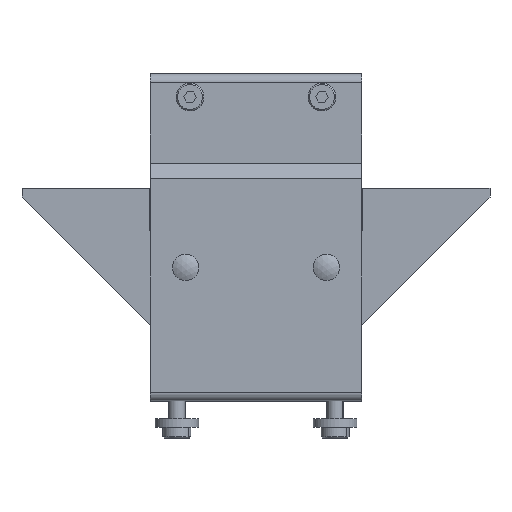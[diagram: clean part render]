
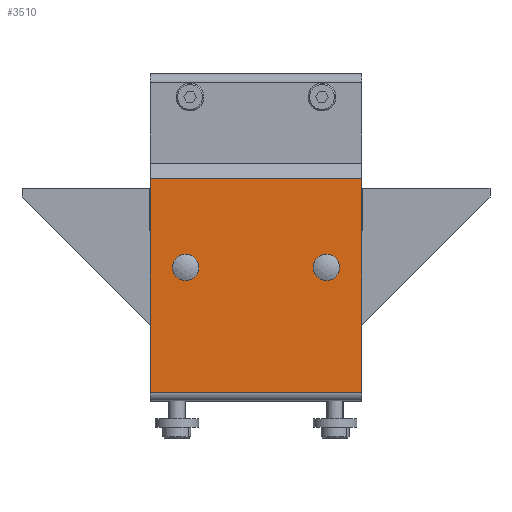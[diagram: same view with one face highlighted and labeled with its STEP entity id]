
A CAD part, top view. The second image highlights one B-rep face of the part: STEP entity #3510.
In plain terms, the highlighted planar face has unit normal (0, 0, 1) as drawn and (0, 0, -1) by its records, which use the part's own axes.
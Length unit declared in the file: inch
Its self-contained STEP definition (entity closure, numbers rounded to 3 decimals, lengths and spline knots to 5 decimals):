
#2622=DIRECTION('',(0.,-1.,0.));
#2623=VECTOR('',#2622,3.03);
#2624=CARTESIAN_POINT('',(-1.5,0.831,-0.6045));
#2625=LINE('',#2624,#2623);
#2720=DIRECTION('',(0.,-1.,0.));
#2721=VECTOR('',#2720,3.03);
#2722=CARTESIAN_POINT('',(1.5,0.831,-0.6045));
#2723=LINE('',#2722,#2721);
#2724=DIRECTION('',(1.,0.,0.));
#2725=VECTOR('',#2724,3.);
#2726=CARTESIAN_POINT('',(-1.5,0.831,-0.6045));
#2727=LINE('',#2726,#2725);
#2728=CARTESIAN_POINT('',(1.,-0.426,-0.6045));
#2729=DIRECTION('',(0.,0.,1.));
#2730=DIRECTION('',(1.,0.,0.));
#2731=AXIS2_PLACEMENT_3D('',#2728,#2729,#2730);
#2733=CARTESIAN_POINT('',(1.,-0.426,-0.6045));
#2734=DIRECTION('',(0.,0.,1.));
#2735=DIRECTION('',(-1.,0.,0.));
#2736=AXIS2_PLACEMENT_3D('',#2733,#2734,#2735);
#2738=CARTESIAN_POINT('',(-1.,-0.426,-0.6045));
#2739=DIRECTION('',(0.,0.,1.));
#2740=DIRECTION('',(1.,0.,0.));
#2741=AXIS2_PLACEMENT_3D('',#2738,#2739,#2740);
#2743=CARTESIAN_POINT('',(-1.,-0.426,-0.6045));
#2744=DIRECTION('',(0.,0.,1.));
#2745=DIRECTION('',(-1.,0.,0.));
#2746=AXIS2_PLACEMENT_3D('',#2743,#2744,#2745);
#2850=DIRECTION('',(1.,0.,0.));
#2851=VECTOR('',#2850,3.);
#2852=CARTESIAN_POINT('',(-1.5,-2.199,-0.6045));
#2853=LINE('',#2852,#2851);
#3182=CARTESIAN_POINT('',(-1.5,-2.199,-0.6045));
#3184=VERTEX_POINT('',#3182);
#3194=CARTESIAN_POINT('',(-0.903,-0.426,-0.6045));
#3195=CARTESIAN_POINT('',(-1.097,-0.426,-0.6045));
#3196=VERTEX_POINT('',#3194);
#3197=VERTEX_POINT('',#3195);
#3280=CARTESIAN_POINT('',(0.903,-0.426,-0.6045));
#3281=CARTESIAN_POINT('',(1.097,-0.426,-0.6045));
#3282=VERTEX_POINT('',#3280);
#3283=VERTEX_POINT('',#3281);
#3302=CARTESIAN_POINT('',(1.5,0.831,-0.6045));
#3303=CARTESIAN_POINT('',(1.5,-2.199,-0.6045));
#3304=VERTEX_POINT('',#3302);
#3305=VERTEX_POINT('',#3303);
#3346=CARTESIAN_POINT('',(-1.5,0.831,-0.6045));
#3347=VERTEX_POINT('',#3346);
#3484=CARTESIAN_POINT('',(1.5,-2.324,-0.6045));
#3485=DIRECTION('',(0.,0.,1.));
#3486=DIRECTION('',(1.,0.,0.));
#3487=AXIS2_PLACEMENT_3D('',#3484,#3485,#3486);
#3488=PLANE('',#3487);
#3490=ORIENTED_EDGE('',*,*,#3489,.F.);
#3492=ORIENTED_EDGE('',*,*,#3491,.F.);
#3493=ORIENTED_EDGE('',*,*,#3434,.T.);
#3495=ORIENTED_EDGE('',*,*,#3494,.T.);
#3496=EDGE_LOOP('',(#3490,#3492,#3493,#3495));
#3497=FACE_OUTER_BOUND('',#3496,.F.);
#3499=ORIENTED_EDGE('',*,*,#3498,.F.);
#3501=ORIENTED_EDGE('',*,*,#3500,.F.);
#3502=EDGE_LOOP('',(#3499,#3501));
#3503=FACE_BOUND('',#3502,.F.);
#3505=ORIENTED_EDGE('',*,*,#3504,.F.);
#3507=ORIENTED_EDGE('',*,*,#3506,.F.);
#3508=EDGE_LOOP('',(#3505,#3507));
#3509=FACE_BOUND('',#3508,.F.);
#2732=CIRCLE('',#2731,0.097);
#2737=CIRCLE('',#2736,0.097);
#2742=CIRCLE('',#2741,0.097);
#2747=CIRCLE('',#2746,0.097);
#3434=EDGE_CURVE('',#3347,#3184,#2625,.T.);
#3489=EDGE_CURVE('',#3304,#3305,#2723,.T.);
#3491=EDGE_CURVE('',#3347,#3304,#2727,.T.);
#3494=EDGE_CURVE('',#3184,#3305,#2853,.T.);
#3498=EDGE_CURVE('',#3283,#3282,#2732,.T.);
#3500=EDGE_CURVE('',#3282,#3283,#2737,.T.);
#3504=EDGE_CURVE('',#3196,#3197,#2742,.T.);
#3506=EDGE_CURVE('',#3197,#3196,#2747,.T.);
#3510=ADVANCED_FACE('',(#3497,#3503,#3509),#3488,.F.);
